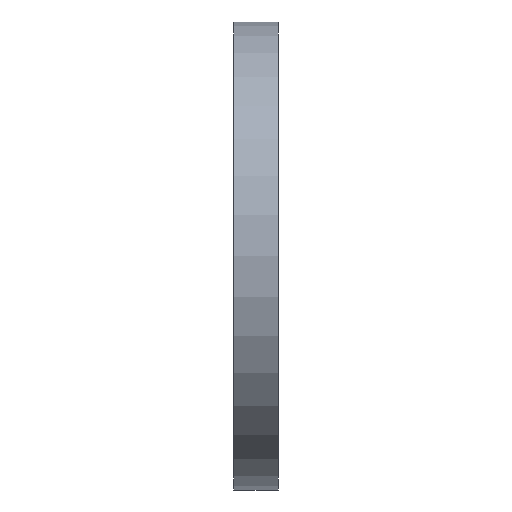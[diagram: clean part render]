
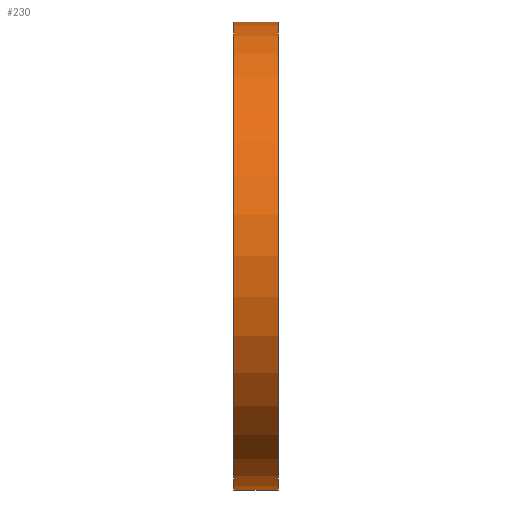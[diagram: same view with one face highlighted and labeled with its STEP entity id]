
A CAD part, left-side view. The second image highlights one B-rep face of the part: STEP entity #230.
In plain terms, the highlighted cylindrical face has radius 187.5 mm (diameter 375 mm), a partial arc.
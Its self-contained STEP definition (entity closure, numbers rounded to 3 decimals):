
#27 = DIRECTION ( 'NONE',  ( 0., 1., 0. ) ) ;
#117 = DIRECTION ( 'NONE',  ( 0., 0., 1. ) ) ;
#123 = CARTESIAN_POINT ( 'NONE',  ( 0., 36., 187.5 ) ) ;
#154 = VERTEX_POINT ( 'NONE', #123 ) ;
#199 = CARTESIAN_POINT ( 'NONE',  ( 0., 36., 0. ) ) ;
#218 = EDGE_CURVE ( 'NONE', #904, #154, #385, .T. ) ;
#230 = ADVANCED_FACE ( 'NONE', ( #829 ), #374, .T. ) ;
#271 = EDGE_CURVE ( 'NONE', #674, #154, #669, .T. ) ;
#274 = CARTESIAN_POINT ( 'NONE',  ( 0., 36., -187.5 ) ) ;
#296 = ORIENTED_EDGE ( 'NONE', *, *, #444, .F. ) ;
#309 = DIRECTION ( 'NONE',  ( 0., 1., 0. ) ) ;
#317 = CIRCLE ( 'NONE', #427, 187.5 ) ;
#336 = ORIENTED_EDGE ( 'NONE', *, *, #993, .T. ) ;
#374 = CYLINDRICAL_SURFACE ( 'NONE', #857, 187.5 ) ;
#385 = CIRCLE ( 'NONE', #1017, 187.5 ) ;
#427 = AXIS2_PLACEMENT_3D ( 'NONE', #917, #309, #838 ) ;
#444 = EDGE_CURVE ( 'NONE', #601, #904, #532, .T. ) ;
#457 = CARTESIAN_POINT ( 'NONE',  ( 0., 0., -187.5 ) ) ;
#458 = EDGE_LOOP ( 'NONE', ( #296, #336, #644, #1089 ) ) ;
#469 = CARTESIAN_POINT ( 'NONE',  ( 0., 34.695, 0. ) ) ;
#505 = CARTESIAN_POINT ( 'NONE',  ( 0., 34.695, 187.5 ) ) ;
#532 = LINE ( 'NONE', #866, #906 ) ;
#536 = DIRECTION ( 'NONE',  ( 0., 1., 0. ) ) ;
#578 = DIRECTION ( 'NONE',  ( 0., 1., 0. ) ) ;
#588 = CARTESIAN_POINT ( 'NONE',  ( 0., 0., 187.5 ) ) ;
#601 = VERTEX_POINT ( 'NONE', #457 ) ;
#644 = ORIENTED_EDGE ( 'NONE', *, *, #271, .T. ) ;
#669 = LINE ( 'NONE', #505, #875 ) ;
#674 = VERTEX_POINT ( 'NONE', #588 ) ;
#730 = DIRECTION ( 'NONE',  ( 0., 0., 1. ) ) ;
#829 = FACE_OUTER_BOUND ( 'NONE', #458, .T. ) ;
#838 = DIRECTION ( 'NONE',  ( 0., 0., 1. ) ) ;
#857 = AXIS2_PLACEMENT_3D ( 'NONE', #469, #27, #730 ) ;
#866 = CARTESIAN_POINT ( 'NONE',  ( 0., 34.695, -187.5 ) ) ;
#875 = VECTOR ( 'NONE', #578, 1000. ) ;
#899 = DIRECTION ( 'NONE',  ( 0., 1., 0. ) ) ;
#904 = VERTEX_POINT ( 'NONE', #274 ) ;
#906 = VECTOR ( 'NONE', #536, 1000. ) ;
#917 = CARTESIAN_POINT ( 'NONE',  ( 0., 0., 0. ) ) ;
#993 = EDGE_CURVE ( 'NONE', #601, #674, #317, .T. ) ;
#1017 = AXIS2_PLACEMENT_3D ( 'NONE', #199, #899, #117 ) ;
#1089 = ORIENTED_EDGE ( 'NONE', *, *, #218, .F. ) ;
